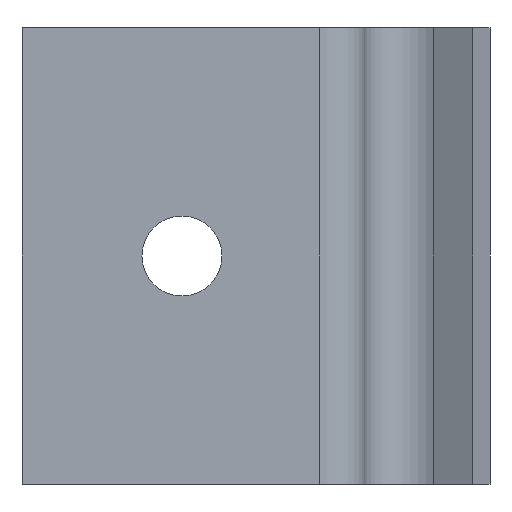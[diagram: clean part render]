
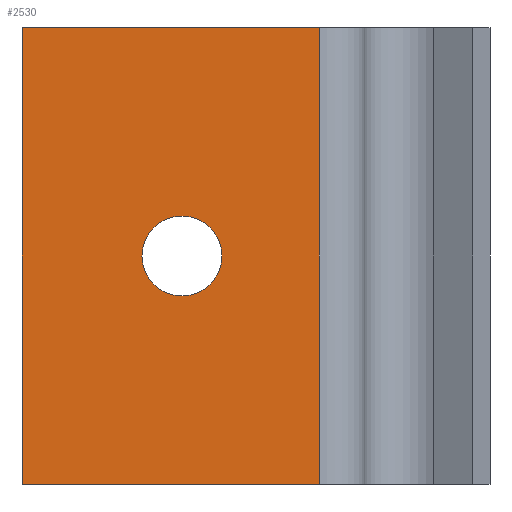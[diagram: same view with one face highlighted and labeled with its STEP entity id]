
A CAD part, front view. The second image highlights one B-rep face of the part: STEP entity #2530.
In plain terms, the highlighted planar face has unit normal (0, -1, 0).
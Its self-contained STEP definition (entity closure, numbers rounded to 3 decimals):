
#100=CARTESIAN_POINT('',(0.,0.,0.));
#110=VERTEX_POINT('',#100);
#960=CARTESIAN_POINT('',(26.,0.,0.));
#970=VERTEX_POINT('',#960);
#1000=CARTESIAN_POINT('',(30.,0.,0.));
#1010=DIRECTION('',(-1.,0.,0.));
#1020=VECTOR('',#1010,1.);
#1030=LINE('',#1000,#1020);
#1040=EDGE_CURVE('',#970,#110,#1030,.T.);
#1140=CARTESIAN_POINT('',(30.,0.,-40.));
#1150=DIRECTION('',(-1.,0.,0.));
#1160=VECTOR('',#1150,1.);
#1170=LINE('',#1140,#1160);
#1180=CARTESIAN_POINT('',(26.,0.,-40.));
#1190=VERTEX_POINT('',#1180);
#1200=CARTESIAN_POINT('',(0.,0.,-40.));
#1210=VERTEX_POINT('',#1200);
#1220=EDGE_CURVE('',#1190,#1210,#1170,.T.);
#2170=CARTESIAN_POINT('',(30.,0.,0.));
#2180=DIRECTION('',(0.,1.,0.));
#2190=DIRECTION('',(1.,0.,0.));
#2200=AXIS2_PLACEMENT_3D('',#2170,#2180,#2190);
#2210=PLANE('',#2200);
#2220=CARTESIAN_POINT('',(14.,0.,-20.));
#2230=DIRECTION('',(0.,1.,0.));
#2240=DIRECTION('',(1.,0.,0.));
#2250=AXIS2_PLACEMENT_3D('',#2220,#2230,#2240);
#2260=CIRCLE('',#2250,3.5);
#2270=CARTESIAN_POINT('',(17.5,0.,-20.));
#2280=VERTEX_POINT('',#2270);
#2290=CARTESIAN_POINT('',(10.5,0.,-20.));
#2300=VERTEX_POINT('',#2290);
#2310=EDGE_CURVE('',#2280,#2300,#2260,.T.);
#2320=ORIENTED_EDGE('',*,*,#2310,.T.);
#2330=EDGE_CURVE('',#2300,#2280,#2260,.T.);
#2340=ORIENTED_EDGE('',*,*,#2330,.T.);
#2350=EDGE_LOOP('',(#2340,#2320));
#2360=FACE_BOUND('',#2350,.T.);
#2370=ORIENTED_EDGE('',*,*,#1220,.F.);
#2380=CARTESIAN_POINT('',(0.,0.,0.));
#2390=DIRECTION('',(-0.,-0.,-1.));
#2400=VECTOR('',#2390,1.);
#2410=LINE('',#2380,#2400);
#2420=EDGE_CURVE('',#110,#1210,#2410,.T.);
#2430=ORIENTED_EDGE('',*,*,#2420,.T.);
#2440=ORIENTED_EDGE('',*,*,#1040,.T.);
#2450=CARTESIAN_POINT('',(26.,0.,0.));
#2460=DIRECTION('',(-0.,-0.,-1.));
#2470=VECTOR('',#2460,1.);
#2480=LINE('',#2450,#2470);
#2490=EDGE_CURVE('',#970,#1190,#2480,.T.);
#2500=ORIENTED_EDGE('',*,*,#2490,.F.);
#2510=EDGE_LOOP('',(#2500,#2440,#2430,#2370));
#2520=FACE_OUTER_BOUND('',#2510,.T.);
#2530=ADVANCED_FACE('',(#2360,#2520),#2210,.F.);
